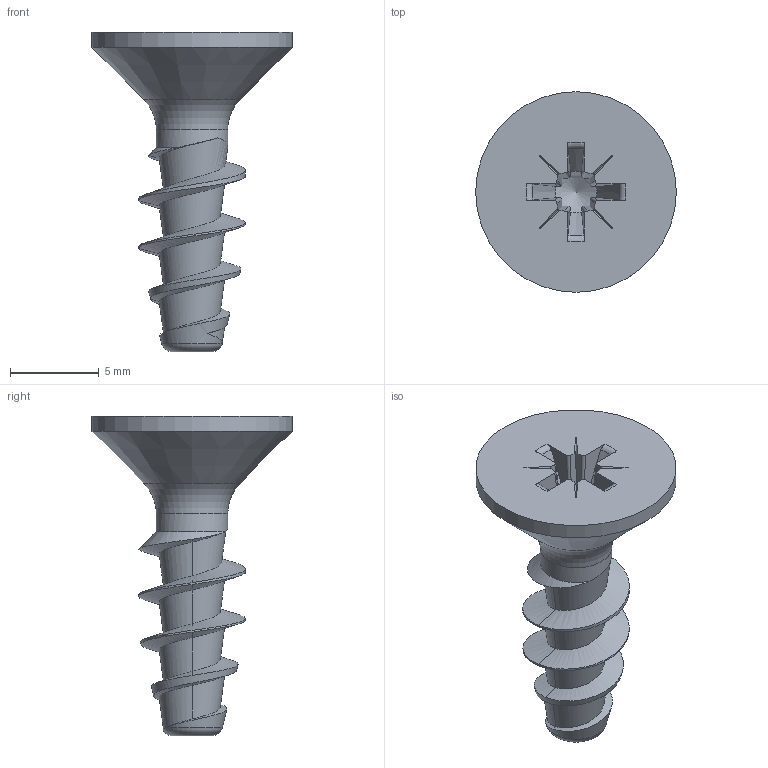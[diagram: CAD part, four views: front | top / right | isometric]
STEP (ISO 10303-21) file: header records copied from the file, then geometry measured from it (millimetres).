
FILE_DESCRIPTION(/* description */ (''),/* implementation_level */ '2;1');
FILE_NAME(/* name */ 'KN1033-STS-Neu-60x18-Z2.step',/* time_stamp */ '2017-10-20T11:53:25+02:00',/* author */ (''),/* organization */ (''),/* preprocessor_version */ 'ST-DEVELOPER v16',/* originating_system */ 'SIEMENS PLM Software NX 10.0',/* authorisation */ '');
FILE_SCHEMA (('AUTOMOTIVE_DESIGN { 1 0 10303 214 3 1 1 1 }'));
Length unit declared in the file: millimetre
Products named in the file (1): KN1033-STS-Neu-60x18-Z2
Bounding box: 11.3 x 11.3 x 18 mm (x, y, z)
Volume: 408.8 mm3; surface area: 544.5 mm2
Topology: 1 solids, 1 shells, 70 faces, 190 edges, 122 vertices
Faces by surface type: plane 30, bspline 15, cylinder 11, cone 8, torus 6
Full cylindrical faces by diameter (mm): 4.03 x1, 11.3 x1
Entity records: 3299 total; most frequent: CARTESIAN_POINT 1728, ORIENTED_EDGE 358, DIRECTION 250, EDGE_CURVE 179, VERTEX_POINT 118, AXIS2_PLACEMENT_3D 85, LINE 80, VECTOR 80
